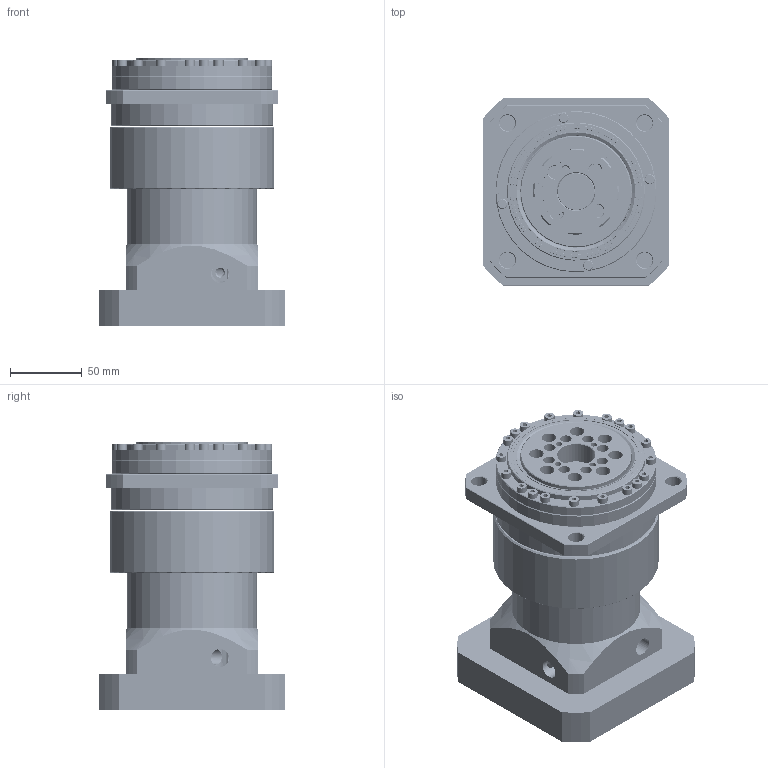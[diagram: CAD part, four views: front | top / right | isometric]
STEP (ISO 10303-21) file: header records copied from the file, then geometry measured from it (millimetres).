
FILE_DESCRIPTION (( 'STEP AP203' ), '1' );
FILE_NAME ('GNDU120L2-24-110-145-M8(20160802).STEP', '2016-08-02T03:57:10', ( 'user' ), ( '' ), 'SwSTEP 2.0', 'SolidWorks 2012', '' );
FILE_SCHEMA (( 'CONFIG_CONTROL_DESIGN' ));
Length unit declared in the file: millimetre
Products named in the file (1): GNDU120L2-24-110-145-M8(20160802)
Bounding box: 130 x 130 x 186.75 mm (x, y, z)
Volume: 1128363 mm3; surface area: 331954.2 mm2
Topology: 32 solids, 32 shells, 3741 faces, 8110 edges, 4476 vertices
Faces by surface type: cone 2599, cylinder 714, plane 392, torus 34, bspline 2
Entity records: 101452 total; most frequent: DIRECTION 19435, CARTESIAN_POINT 17981, ORIENTED_EDGE 16012, EDGE_CURVE 8006, AXIS2_PLACEMENT_3D 7812, VERTEX_POINT 4476, EDGE_LOOP 4144, CIRCLE 4072
